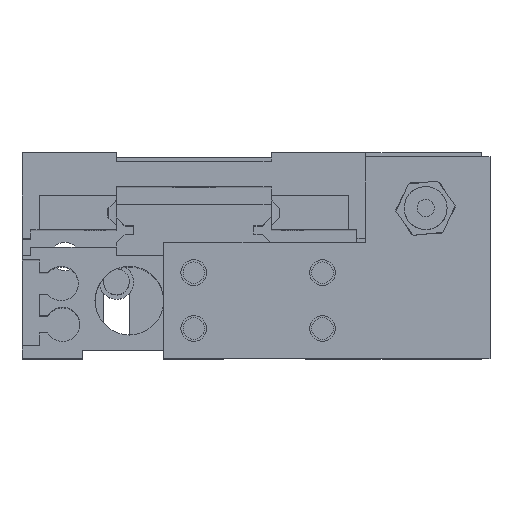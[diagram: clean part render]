
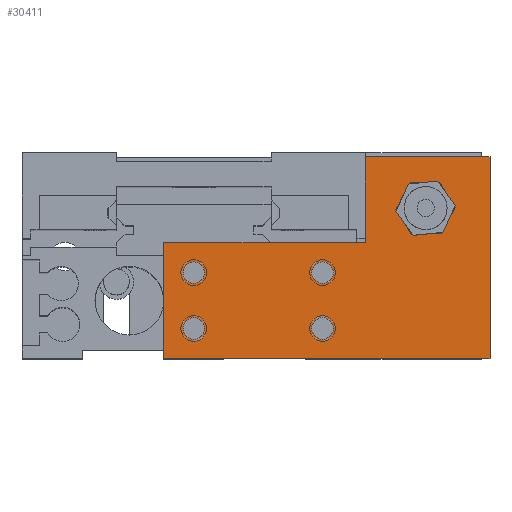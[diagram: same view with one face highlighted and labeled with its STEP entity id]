
A CAD part, top view. The second image highlights one B-rep face of the part: STEP entity #30411.
In plain terms, the highlighted planar face has unit normal (0, 0, 1).
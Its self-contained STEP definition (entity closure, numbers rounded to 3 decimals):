
#3 = ORIENTED_EDGE ( 'NONE', *, *, #3127, .F. ) ;
#267 = ORIENTED_EDGE ( 'NONE', *, *, #2194, .F. ) ;
#307 = ORIENTED_EDGE ( 'NONE', *, *, #30428, .T. ) ;
#335 = ORIENTED_EDGE ( 'NONE', *, *, #27806, .T. ) ;
#337 = ORIENTED_EDGE ( 'NONE', *, *, #12272, .F. ) ;
#339 = ORIENTED_EDGE ( 'NONE', *, *, #12273, .F. ) ;
#355 = ORIENTED_EDGE ( 'NONE', *, *, #6657, .F. ) ;
#409 = EDGE_CURVE ( 'NONE', #6693, #5532, #8546, .T. ) ;
#426 = EDGE_LOOP ( 'NONE', ( #3107, #337 ) ) ;
#845 = ORIENTED_EDGE ( 'NONE', *, *, #3110, .T. ) ;
#908 = ORIENTED_EDGE ( 'NONE', *, *, #409, .F. ) ;
#924 = EDGE_LOOP ( 'NONE', ( #267, #2097 ) ) ;
#1714 = EDGE_LOOP ( 'NONE', ( #3094, #1926 ) ) ;
#1926 = ORIENTED_EDGE ( 'NONE', *, *, #28776, .F. ) ;
#2097 = ORIENTED_EDGE ( 'NONE', *, *, #12255, .F. ) ;
#2107 = ORIENTED_EDGE ( 'NONE', *, *, #28054, .T. ) ;
#2126 = EDGE_LOOP ( 'NONE', ( #335, #3119, #2107, #3099, #845, #307 ) ) ;
#2127 = EDGE_LOOP ( 'NONE', ( #3, #339 ) ) ;
#2136 = EDGE_CURVE ( 'NONE', #28640, #27368, #9509, .T. ) ;
#2194 = EDGE_CURVE ( 'NONE', #12315, #27743, #9663, .T. ) ;
#3094 = ORIENTED_EDGE ( 'NONE', *, *, #2136, .F. ) ;
#3099 = ORIENTED_EDGE ( 'NONE', *, *, #29203, .T. ) ;
#3106 = EDGE_CURVE ( 'NONE', #12266, #12316, #8017, .T. ) ;
#3107 = ORIENTED_EDGE ( 'NONE', *, *, #3106, .F. ) ;
#3110 = EDGE_CURVE ( 'NONE', #28455, #28899, #8005, .T. ) ;
#3119 = ORIENTED_EDGE ( 'NONE', *, *, #28481, .T. ) ;
#3127 = EDGE_CURVE ( 'NONE', #12277, #12276, #8011, .T. ) ;
#3148 = EDGE_LOOP ( 'NONE', ( #908, #355 ) ) ;
#5532 = VERTEX_POINT ( 'NONE', #18783 ) ;
#6657 = EDGE_CURVE ( 'NONE', #5532, #6693, #29235, .T. ) ;
#6693 = VERTEX_POINT ( 'NONE', #29653 ) ;
#7951 = DIRECTION ( 'NONE',  ( 0., 0., 1. ) ) ;
#8004 = CARTESIAN_POINT ( 'NONE',  ( 3.5, 3.5, 6. ) ) ;
#8005 = LINE ( 'NONE', #8019, #8010 ) ;
#8008 = CARTESIAN_POINT ( 'NONE',  ( 18.5, 3.5, 6. ) ) ;
#8010 = VECTOR ( 'NONE', #8018, 1000. ) ;
#8011 = CIRCLE ( 'NONE', #8064, 1.25 ) ;
#8014 = DIRECTION ( 'NONE',  ( 1., 0., 0. ) ) ;
#8015 = DIRECTION ( 'NONE',  ( 0., 0., 1. ) ) ;
#8016 = AXIS2_PLACEMENT_3D ( 'NONE', #8004, #8015, #8014 ) ;
#8017 = CIRCLE ( 'NONE', #8016, 1.25 ) ;
#8018 = DIRECTION ( 'NONE',  ( 0., -1., 0. ) ) ;
#8019 = CARTESIAN_POINT ( 'NONE',  ( 23.5, 23.5, 6. ) ) ;
#8063 = DIRECTION ( 'NONE',  ( 1., 0., 0. ) ) ;
#8064 = AXIS2_PLACEMENT_3D ( 'NONE', #8008, #7951, #8063 ) ;
#8544 = DIRECTION ( 'NONE',  ( 0., 0., 1. ) ) ;
#8545 = AXIS2_PLACEMENT_3D ( 'NONE', #8547, #8544, #8624 ) ;
#8546 = CIRCLE ( 'NONE', #8545, 1.25 ) ;
#8547 = CARTESIAN_POINT ( 'NONE',  ( 3.5, 10., 6. ) ) ;
#8624 = DIRECTION ( 'NONE',  ( 1., 0., 0. ) ) ;
#9456 = CARTESIAN_POINT ( 'NONE',  ( 30.5, 17.5, 6. ) ) ;
#9460 = AXIS2_PLACEMENT_3D ( 'NONE', #9456, #9499, #9498 ) ;
#9498 = DIRECTION ( 'NONE',  ( 1., 0., 0. ) ) ;
#9499 = DIRECTION ( 'NONE',  ( 0., 0., 1. ) ) ;
#9509 = CIRCLE ( 'NONE', #9460, 2.5 ) ;
#9639 = AXIS2_PLACEMENT_3D ( 'NONE', #9697, #9695, #9694 ) ;
#9663 = CIRCLE ( 'NONE', #9639, 1.25 ) ;
#9694 = DIRECTION ( 'NONE',  ( 1., 0., 0. ) ) ;
#9695 = DIRECTION ( 'NONE',  ( 0., 0., 1. ) ) ;
#9697 = CARTESIAN_POINT ( 'NONE',  ( 18.5, 10., 6. ) ) ;
#12255 = EDGE_CURVE ( 'NONE', #27743, #12315, #20140, .T. ) ;
#12266 = VERTEX_POINT ( 'NONE', #20222 ) ;
#12272 = EDGE_CURVE ( 'NONE', #12316, #12266, #20198, .T. ) ;
#12273 = EDGE_CURVE ( 'NONE', #12276, #12277, #20235, .T. ) ;
#12276 = VERTEX_POINT ( 'NONE', #20296 ) ;
#12277 = VERTEX_POINT ( 'NONE', #20191 ) ;
#12315 = VERTEX_POINT ( 'NONE', #20359 ) ;
#12316 = VERTEX_POINT ( 'NONE', #20323 ) ;
#18783 = CARTESIAN_POINT ( 'NONE',  ( 2.25, 10., 6. ) ) ;
#20070 = AXIS2_PLACEMENT_3D ( 'NONE', #20134, #20133, #20132 ) ;
#20125 = CARTESIAN_POINT ( 'NONE',  ( 18.5, 3.5, 6. ) ) ;
#20132 = DIRECTION ( 'NONE',  ( 1., 0., 0. ) ) ;
#20133 = DIRECTION ( 'NONE',  ( 0., 0., 1. ) ) ;
#20134 = CARTESIAN_POINT ( 'NONE',  ( 18.5, 10., 6. ) ) ;
#20140 = CIRCLE ( 'NONE', #20070, 1.25 ) ;
#20172 = CARTESIAN_POINT ( 'NONE',  ( 28., 17.5, 6. ) ) ;
#20178 = AXIS2_PLACEMENT_3D ( 'NONE', #20125, #20190, #20298 ) ;
#20180 = DIRECTION ( 'NONE',  ( 1., 0., 0. ) ) ;
#20181 = DIRECTION ( 'NONE',  ( 0., 0., 1. ) ) ;
#20182 = CARTESIAN_POINT ( 'NONE',  ( 3.5, 3.5, 6. ) ) ;
#20189 = CARTESIAN_POINT ( 'NONE',  ( 38., 0., 6. ) ) ;
#20190 = DIRECTION ( 'NONE',  ( 0., 0., 1. ) ) ;
#20191 = CARTESIAN_POINT ( 'NONE',  ( 19.75, 3.5, 6. ) ) ;
#20198 = CIRCLE ( 'NONE', #20223, 1.25 ) ;
#20222 = CARTESIAN_POINT ( 'NONE',  ( 4.75, 3.5, 6. ) ) ;
#20223 = AXIS2_PLACEMENT_3D ( 'NONE', #20182, #20181, #20180 ) ;
#20235 = CIRCLE ( 'NONE', #20178, 1.25 ) ;
#20255 = CARTESIAN_POINT ( 'NONE',  ( 17.25, 10., 6. ) ) ;
#20296 = CARTESIAN_POINT ( 'NONE',  ( 17.25, 3.5, 6. ) ) ;
#20298 = DIRECTION ( 'NONE',  ( 1., 0., 0. ) ) ;
#20309 = CARTESIAN_POINT ( 'NONE',  ( 0., 13.5, 6. ) ) ;
#20313 = CARTESIAN_POINT ( 'NONE',  ( 38., 23.5, 6. ) ) ;
#20320 = CARTESIAN_POINT ( 'NONE',  ( 0., 0., 6. ) ) ;
#20323 = CARTESIAN_POINT ( 'NONE',  ( 2.25, 3.5, 6. ) ) ;
#20326 = DIRECTION ( 'NONE',  ( 0., -1., 0. ) ) ;
#20328 = VECTOR ( 'NONE', #20326, 1000. ) ;
#20330 = CARTESIAN_POINT ( 'NONE',  ( 0., 0., 6. ) ) ;
#20335 = LINE ( 'NONE', #20330, #20328 ) ;
#20338 = LINE ( 'NONE', #20422, #20420 ) ;
#20359 = CARTESIAN_POINT ( 'NONE',  ( 19.75, 10., 6. ) ) ;
#20371 = CARTESIAN_POINT ( 'NONE',  ( 23.5, 23.5, 6. ) ) ;
#20419 = DIRECTION ( 'NONE',  ( 0., 1., 0. ) ) ;
#20420 = VECTOR ( 'NONE', #20419, 1000. ) ;
#20422 = CARTESIAN_POINT ( 'NONE',  ( 38., 0., 6. ) ) ;
#20442 = DIRECTION ( 'NONE',  ( 1., 0., 0. ) ) ;
#20443 = VECTOR ( 'NONE', #20442, 1000. ) ;
#20444 = CARTESIAN_POINT ( 'NONE',  ( 0., 0., 6. ) ) ;
#20445 = LINE ( 'NONE', #20444, #20443 ) ;
#20491 = CIRCLE ( 'NONE', #20568, 2.5 ) ;
#20506 = CARTESIAN_POINT ( 'NONE',  ( 33., 17.5, 6. ) ) ;
#20561 = CARTESIAN_POINT ( 'NONE',  ( 23.5, 13.5, 6. ) ) ;
#20564 = DIRECTION ( 'NONE',  ( 1., 0., 0. ) ) ;
#20566 = DIRECTION ( 'NONE',  ( 0., 0., 1. ) ) ;
#20568 = AXIS2_PLACEMENT_3D ( 'NONE', #20583, #20566, #20564 ) ;
#20583 = CARTESIAN_POINT ( 'NONE',  ( 30.5, 17.5, 6. ) ) ;
#20607 = DIRECTION ( 'NONE',  ( -1., 0., 0. ) ) ;
#20609 = VECTOR ( 'NONE', #20607, 1000. ) ;
#20611 = CARTESIAN_POINT ( 'NONE',  ( 38., 23.5, 6. ) ) ;
#20614 = LINE ( 'NONE', #20611, #20609 ) ;
#20922 = FACE_BOUND ( 'NONE', #2127, .T. ) ;
#20984 = LINE ( 'NONE', #21013, #21002 ) ;
#20989 = DIRECTION ( 'NONE',  ( -1., 0., 0. ) ) ;
#20991 = DIRECTION ( 'NONE',  ( 0., 0., -1. ) ) ;
#21002 = VECTOR ( 'NONE', #21110, 1000. ) ;
#21003 = FACE_OUTER_BOUND ( 'NONE', #2126, .T. ) ;
#21010 = FACE_BOUND ( 'NONE', #426, .T. ) ;
#21012 = PLANE ( 'NONE',  #21017 ) ;
#21013 = CARTESIAN_POINT ( 'NONE',  ( 0., 13.5, 6. ) ) ;
#21015 = FACE_BOUND ( 'NONE', #3148, .T. ) ;
#21017 = AXIS2_PLACEMENT_3D ( 'NONE', #21037, #20991, #20989 ) ;
#21029 = FACE_BOUND ( 'NONE', #1714, .T. ) ;
#21037 = CARTESIAN_POINT ( 'NONE',  ( 0., 13.5, 6. ) ) ;
#21055 = FACE_BOUND ( 'NONE', #924, .T. ) ;
#21110 = DIRECTION ( 'NONE',  ( -1., 0., 0. ) ) ;
#27368 = VERTEX_POINT ( 'NONE', #20172 ) ;
#27641 = VERTEX_POINT ( 'NONE', #20189 ) ;
#27743 = VERTEX_POINT ( 'NONE', #20255 ) ;
#27806 = EDGE_CURVE ( 'NONE', #28035, #27901, #20335, .T. ) ;
#27901 = VERTEX_POINT ( 'NONE', #20320 ) ;
#28009 = VERTEX_POINT ( 'NONE', #20313 ) ;
#28035 = VERTEX_POINT ( 'NONE', #20309 ) ;
#28054 = EDGE_CURVE ( 'NONE', #27641, #28009, #20338, .T. ) ;
#28455 = VERTEX_POINT ( 'NONE', #20371 ) ;
#28481 = EDGE_CURVE ( 'NONE', #27901, #27641, #20445, .T. ) ;
#28640 = VERTEX_POINT ( 'NONE', #20506 ) ;
#28776 = EDGE_CURVE ( 'NONE', #27368, #28640, #20491, .T. ) ;
#28899 = VERTEX_POINT ( 'NONE', #20561 ) ;
#29203 = EDGE_CURVE ( 'NONE', #28009, #28455, #20614, .T. ) ;
#29235 = CIRCLE ( 'NONE', #29357, 1.25 ) ;
#29353 = DIRECTION ( 'NONE',  ( 1., 0., 0. ) ) ;
#29354 = DIRECTION ( 'NONE',  ( 0., 0., 1. ) ) ;
#29356 = CARTESIAN_POINT ( 'NONE',  ( 3.5, 10., 6. ) ) ;
#29357 = AXIS2_PLACEMENT_3D ( 'NONE', #29356, #29354, #29353 ) ;
#29653 = CARTESIAN_POINT ( 'NONE',  ( 4.75, 10., 6. ) ) ;
#30411 = ADVANCED_FACE ( 'NONE', ( #21015, #21055, #21010, #20922, #21029, #21003 ), #21012, .F. ) ;
#30428 = EDGE_CURVE ( 'NONE', #28899, #28035, #20984, .T. ) ;
